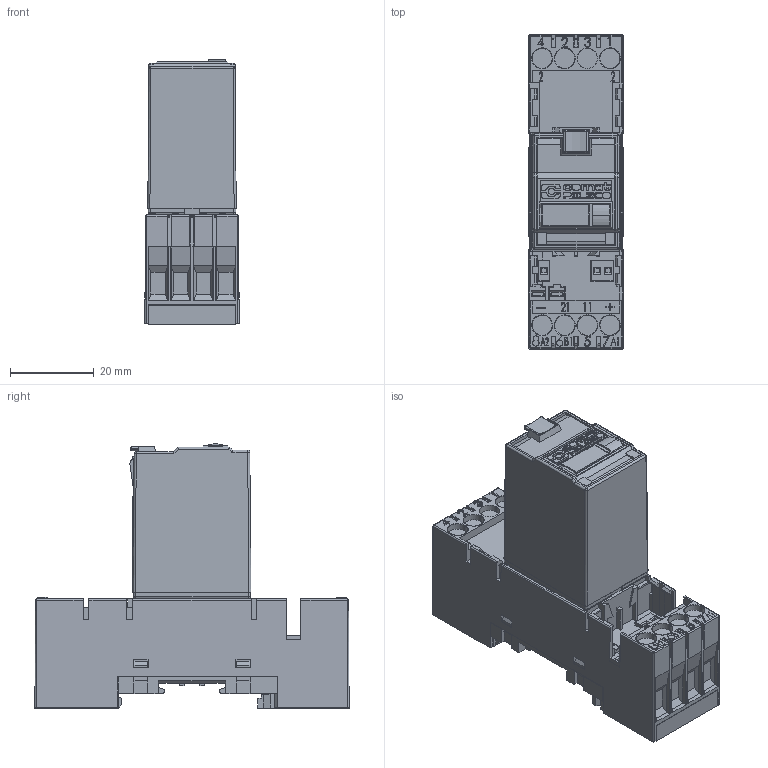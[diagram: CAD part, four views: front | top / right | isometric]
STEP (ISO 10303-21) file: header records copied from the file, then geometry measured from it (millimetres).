
FILE_DESCRIPTION (( 'STEP AP203' ), '1' );
FILE_NAME ('C7_S7-C.STEP', '2018-02-06T09:31:21', ( '' ), ( '' ), 'SwSTEP 2.0', 'SolidWorks 2016', '' );
FILE_SCHEMA (( 'CONFIG_CONTROL_DESIGN' ));
Length unit declared in the file: millimetre
Products named in the file (3): C7; S7-C; C7_S7-C
Assembly tree (2 placements, depth 2):
  C7_S7-C
    S7-C
    C7
Bounding box: 22.5 x 75 x 63.09 mm (x, y, z)
Volume: 55543.4 mm3; surface area: 17841.5 mm2
Topology: 2 solids, 2 shells, 2806 faces, 7390 edges, 4734 vertices
Faces by surface type: plane 1829, bspline 498, cylinder 473, cone 6
Entity records: 102850 total; most frequent: CARTESIAN_POINT 39311, ORIENTED_EDGE 14752, DIRECTION 10075, EDGE_CURVE 7376, LINE 5055, VECTOR 5055, VERTEX_POINT 4734, EDGE_LOOP 2980
